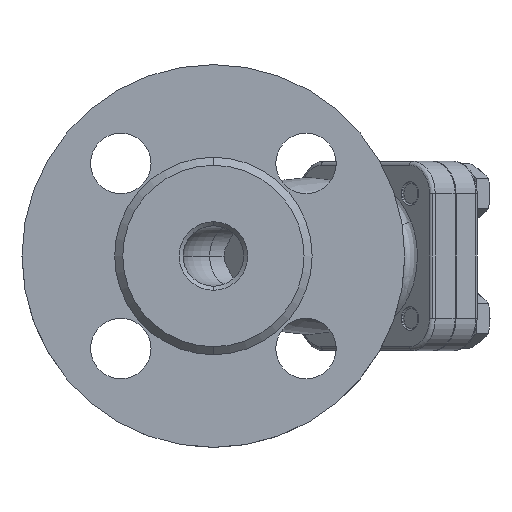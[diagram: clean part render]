
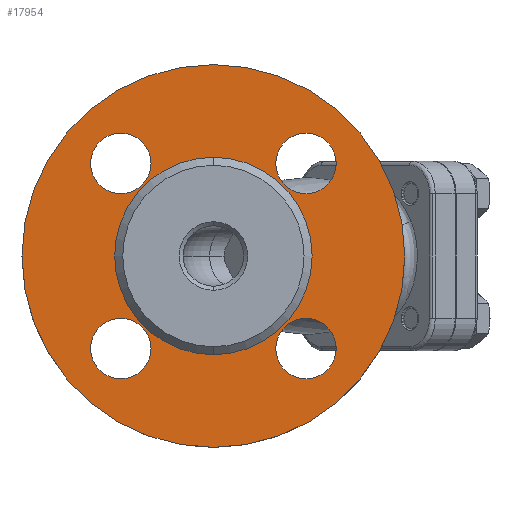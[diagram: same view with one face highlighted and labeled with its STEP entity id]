
A CAD part, left-side view. The second image highlights one B-rep face of the part: STEP entity #17954.
In plain terms, the highlighted planar face has unit normal (-1, 0, 0).
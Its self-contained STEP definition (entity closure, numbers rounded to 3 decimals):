
#109 = ORIENTED_EDGE ( 'NONE', *, *, #14403, .F. ) ;
#232 = AXIS2_PLACEMENT_3D ( 'NONE', #4101, #16269, #5905 ) ;
#239 = AXIS2_PLACEMENT_3D ( 'NONE', #18283, #8015, #20036 ) ;
#511 = FACE_BOUND ( 'NONE', #7921, .T. ) ;
#854 = VERTEX_POINT ( 'NONE', #5361 ) ;
#919 = EDGE_CURVE ( 'NONE', #8263, #3548, #21272, .T. ) ;
#924 = CARTESIAN_POINT ( 'NONE',  ( 2., -22.981, -15.481 ) ) ;
#1155 = VERTEX_POINT ( 'NONE', #13901 ) ;
#1632 = CIRCLE ( 'NONE', #13132, 24.5 ) ;
#1877 = DIRECTION ( 'NONE',  ( -1., 0., 0. ) ) ;
#2027 = AXIS2_PLACEMENT_3D ( 'NONE', #3789, #3763, #3739 ) ;
#2088 = AXIS2_PLACEMENT_3D ( 'NONE', #21054, #10648, #22776 ) ;
#2174 = ORIENTED_EDGE ( 'NONE', *, *, #20870, .F. ) ;
#3161 = AXIS2_PLACEMENT_3D ( 'NONE', #20484, #10107, #22242 ) ;
#3548 = VERTEX_POINT ( 'NONE', #15280 ) ;
#3581 = CIRCLE ( 'NONE', #3161, 24.5 ) ;
#3739 = DIRECTION ( 'NONE',  ( 0., 0., -1. ) ) ;
#3740 = CIRCLE ( 'NONE', #3990, 7.5 ) ;
#3763 = DIRECTION ( 'NONE',  ( 1., 0., 0. ) ) ;
#3789 = CARTESIAN_POINT ( 'NONE',  ( 2., 0., 0. ) ) ;
#3849 = DIRECTION ( 'NONE',  ( -1., 0., 0. ) ) ;
#3990 = AXIS2_PLACEMENT_3D ( 'NONE', #13447, #13420, #13393 ) ;
#4101 = CARTESIAN_POINT ( 'NONE',  ( 2., -22.981, -22.981 ) ) ;
#4358 = CIRCLE ( 'NONE', #4663, 7.5 ) ;
#4663 = AXIS2_PLACEMENT_3D ( 'NONE', #22519, #22471, #22441 ) ;
#4712 = CARTESIAN_POINT ( 'NONE',  ( 2., 0., 24.5 ) ) ;
#4916 = FACE_OUTER_BOUND ( 'NONE', #14002, .T. ) ;
#5361 = CARTESIAN_POINT ( 'NONE',  ( 2., 22.981, -15.481 ) ) ;
#5692 = CARTESIAN_POINT ( 'NONE',  ( 2., 22.981, 30.481 ) ) ;
#5819 = VERTEX_POINT ( 'NONE', #5692 ) ;
#5905 = DIRECTION ( 'NONE',  ( 0., 0., 1. ) ) ;
#6010 = EDGE_CURVE ( 'NONE', #3548, #8263, #20370, .T. ) ;
#6227 = EDGE_LOOP ( 'NONE', ( #6948, #15257 ) ) ;
#6896 = CARTESIAN_POINT ( 'NONE',  ( 2., 0., 0. ) ) ;
#6935 = CIRCLE ( 'NONE', #2088, 7.5 ) ;
#6948 = ORIENTED_EDGE ( 'NONE', *, *, #14764, .T. ) ;
#7177 = EDGE_CURVE ( 'NONE', #854, #7444, #4358, .T. ) ;
#7187 = AXIS2_PLACEMENT_3D ( 'NONE', #14238, #3849, #16037 ) ;
#7444 = VERTEX_POINT ( 'NONE', #17438 ) ;
#7521 = AXIS2_PLACEMENT_3D ( 'NONE', #6896, #8619, #20710 ) ;
#7921 = EDGE_LOOP ( 'NONE', ( #2174, #109 ) ) ;
#8015 = DIRECTION ( 'NONE',  ( -1., 0., 0. ) ) ;
#8263 = VERTEX_POINT ( 'NONE', #9090 ) ;
#8282 = VERTEX_POINT ( 'NONE', #14687 ) ;
#8619 = DIRECTION ( 'NONE',  ( -1., 0., 0. ) ) ;
#8807 = VERTEX_POINT ( 'NONE', #13394 ) ;
#9029 = ORIENTED_EDGE ( 'NONE', *, *, #22132, .F. ) ;
#9090 = CARTESIAN_POINT ( 'NONE',  ( 2., 0., -47.5 ) ) ;
#9361 = EDGE_CURVE ( 'NONE', #8282, #8807, #3740, .T. ) ;
#9407 = ORIENTED_EDGE ( 'NONE', *, *, #6010, .F. ) ;
#9535 = FACE_BOUND ( 'NONE', #18294, .T. ) ;
#9626 = DIRECTION ( 'NONE',  ( -1., 0., 0. ) ) ;
#9762 = DIRECTION ( 'NONE',  ( 1., 0., 0. ) ) ;
#10051 = FACE_BOUND ( 'NONE', #11327, .T. ) ;
#10107 = DIRECTION ( 'NONE',  ( 1., 0., 0. ) ) ;
#10648 = DIRECTION ( 'NONE',  ( -1., 0., 0. ) ) ;
#10756 = CIRCLE ( 'NONE', #239, 7.5 ) ;
#11028 = VERTEX_POINT ( 'NONE', #4712 ) ;
#11327 = EDGE_LOOP ( 'NONE', ( #16202, #14602 ) ) ;
#11813 = CIRCLE ( 'NONE', #7187, 7.5 ) ;
#11931 = CARTESIAN_POINT ( 'NONE',  ( 2., 0., -24.5 ) ) ;
#12114 = CIRCLE ( 'NONE', #21979, 7.5 ) ;
#12426 = CARTESIAN_POINT ( 'NONE',  ( 2., -22.981, -22.981 ) ) ;
#13132 = AXIS2_PLACEMENT_3D ( 'NONE', #20091, #9762, #21885 ) ;
#13227 = CIRCLE ( 'NONE', #232, 7.5 ) ;
#13393 = DIRECTION ( 'NONE',  ( 0., 0., 1. ) ) ;
#13394 = CARTESIAN_POINT ( 'NONE',  ( 2., -22.981, 15.481 ) ) ;
#13420 = DIRECTION ( 'NONE',  ( -1., 0., 0. ) ) ;
#13447 = CARTESIAN_POINT ( 'NONE',  ( 2., -22.981, 22.981 ) ) ;
#13901 = CARTESIAN_POINT ( 'NONE',  ( 2., -22.981, -30.481 ) ) ;
#14002 = EDGE_LOOP ( 'NONE', ( #22796, #9407 ) ) ;
#14113 = FACE_BOUND ( 'NONE', #16966, .T. ) ;
#14200 = DIRECTION ( 'NONE',  ( 0., 0., 1. ) ) ;
#14238 = CARTESIAN_POINT ( 'NONE',  ( 2., 22.981, -22.981 ) ) ;
#14403 = EDGE_CURVE ( 'NONE', #5819, #19863, #6935, .T. ) ;
#14602 = ORIENTED_EDGE ( 'NONE', *, *, #9361, .F. ) ;
#14687 = CARTESIAN_POINT ( 'NONE',  ( 2., -22.981, 30.481 ) ) ;
#14764 = EDGE_CURVE ( 'NONE', #19095, #11028, #3581, .T. ) ;
#15257 = ORIENTED_EDGE ( 'NONE', *, *, #20974, .T. ) ;
#15280 = CARTESIAN_POINT ( 'NONE',  ( 2., 0., 47.5 ) ) ;
#15324 = ORIENTED_EDGE ( 'NONE', *, *, #22681, .F. ) ;
#16037 = DIRECTION ( 'NONE',  ( 0., 0., 1. ) ) ;
#16202 = ORIENTED_EDGE ( 'NONE', *, *, #21390, .F. ) ;
#16269 = DIRECTION ( 'NONE',  ( -1., 0., 0. ) ) ;
#16844 = DIRECTION ( 'NONE',  ( 0., 0., -1. ) ) ;
#16908 = DIRECTION ( 'NONE',  ( 1., 0., 0. ) ) ;
#16966 = EDGE_LOOP ( 'NONE', ( #9029, #19700 ) ) ;
#16970 = CARTESIAN_POINT ( 'NONE',  ( 2., 0., 0. ) ) ;
#17180 = PLANE ( 'NONE',  #7521 ) ;
#17240 = AXIS2_PLACEMENT_3D ( 'NONE', #12426, #1877, #14200 ) ;
#17438 = CARTESIAN_POINT ( 'NONE',  ( 2., 22.981, -30.481 ) ) ;
#17954 = ADVANCED_FACE ( 'NONE', ( #511, #10051, #14113, #9535, #4916, #22787 ), #17180, .T. ) ;
#18283 = CARTESIAN_POINT ( 'NONE',  ( 2., -22.981, 22.981 ) ) ;
#18294 = EDGE_LOOP ( 'NONE', ( #15324, #19250 ) ) ;
#19095 = VERTEX_POINT ( 'NONE', #11931 ) ;
#19250 = ORIENTED_EDGE ( 'NONE', *, *, #7177, .F. ) ;
#19270 = VERTEX_POINT ( 'NONE', #924 ) ;
#19700 = ORIENTED_EDGE ( 'NONE', *, *, #22222, .F. ) ;
#19775 = CARTESIAN_POINT ( 'NONE',  ( 2., 22.981, 15.481 ) ) ;
#19863 = VERTEX_POINT ( 'NONE', #19775 ) ;
#19931 = CARTESIAN_POINT ( 'NONE',  ( 2., 22.981, 22.981 ) ) ;
#20036 = DIRECTION ( 'NONE',  ( 0., 0., 1. ) ) ;
#20091 = CARTESIAN_POINT ( 'NONE',  ( 2., 0., 0. ) ) ;
#20370 = CIRCLE ( 'NONE', #22484, 47.5 ) ;
#20484 = CARTESIAN_POINT ( 'NONE',  ( 2., 0., 0. ) ) ;
#20710 = DIRECTION ( 'NONE',  ( 0., 0., 1. ) ) ;
#20870 = EDGE_CURVE ( 'NONE', #19863, #5819, #12114, .T. ) ;
#20974 = EDGE_CURVE ( 'NONE', #11028, #19095, #1632, .T. ) ;
#21054 = CARTESIAN_POINT ( 'NONE',  ( 2., 22.981, 22.981 ) ) ;
#21272 = CIRCLE ( 'NONE', #2027, 47.5 ) ;
#21390 = EDGE_CURVE ( 'NONE', #8807, #8282, #10756, .T. ) ;
#21738 = DIRECTION ( 'NONE',  ( 0., 0., 1. ) ) ;
#21885 = DIRECTION ( 'NONE',  ( 0., 0., -1. ) ) ;
#21979 = AXIS2_PLACEMENT_3D ( 'NONE', #19931, #9626, #21738 ) ;
#22132 = EDGE_CURVE ( 'NONE', #1155, #19270, #22481, .T. ) ;
#22222 = EDGE_CURVE ( 'NONE', #19270, #1155, #13227, .T. ) ;
#22242 = DIRECTION ( 'NONE',  ( 0., 0., -1. ) ) ;
#22441 = DIRECTION ( 'NONE',  ( 0., 0., 1. ) ) ;
#22471 = DIRECTION ( 'NONE',  ( -1., 0., 0. ) ) ;
#22481 = CIRCLE ( 'NONE', #17240, 7.5 ) ;
#22484 = AXIS2_PLACEMENT_3D ( 'NONE', #16970, #16908, #16844 ) ;
#22519 = CARTESIAN_POINT ( 'NONE',  ( 2., 22.981, -22.981 ) ) ;
#22681 = EDGE_CURVE ( 'NONE', #7444, #854, #11813, .T. ) ;
#22776 = DIRECTION ( 'NONE',  ( 0., 0., 1. ) ) ;
#22787 = FACE_BOUND ( 'NONE', #6227, .T. ) ;
#22796 = ORIENTED_EDGE ( 'NONE', *, *, #919, .F. ) ;
